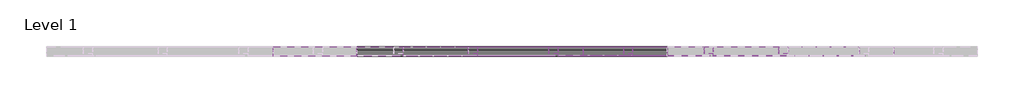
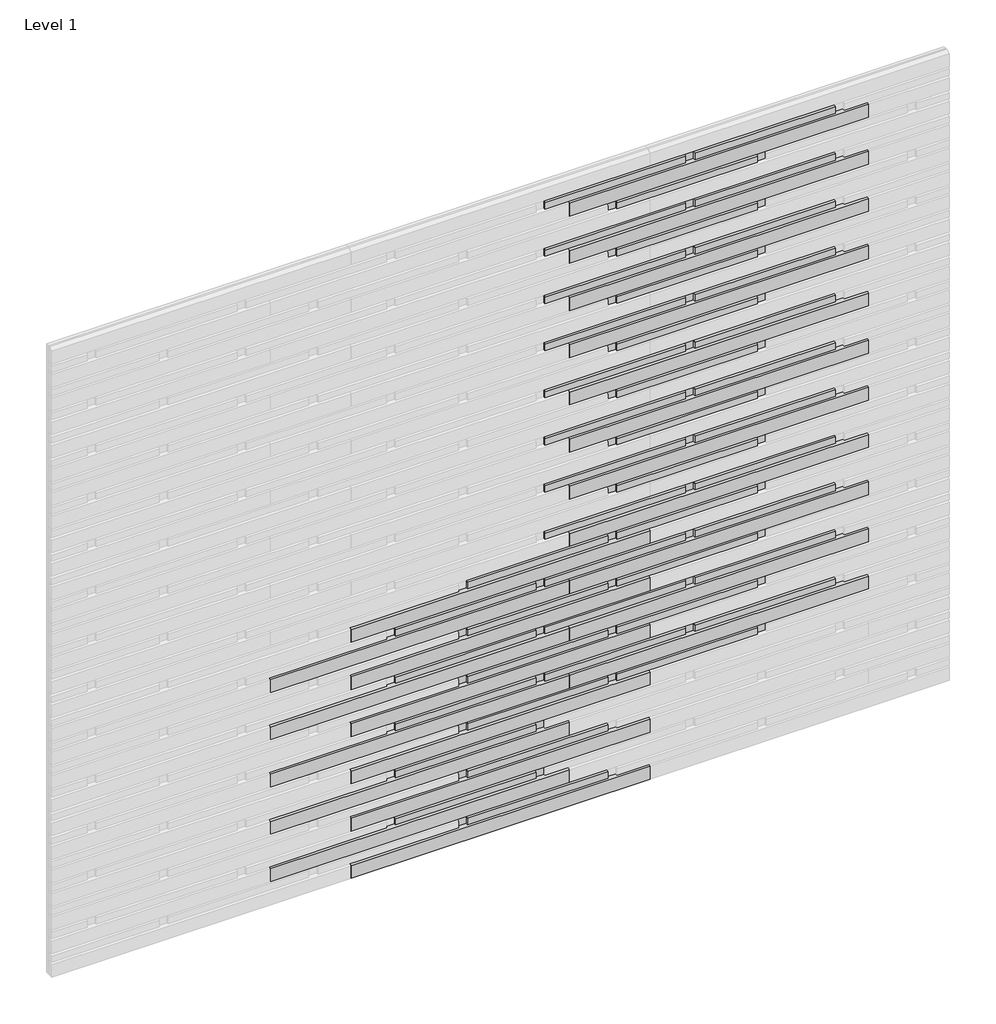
# One storey, part 3 of 4: 109 proxies.
"""IFC4 building model written with IfcOpenShell, lengths in millimetres."""

from ifc_helpers import new_model, si_unit, origin, place, context, project, spatial, transform, mapped, element, save
from components import specialty_equipment_50deff0f, specialty_equipment_1c03680a, specialty_equipment_1ede2179

model = new_model("IFC4")

# Units and contexts
model_context = context("Model", 3, world=origin())
ifc_project = project(units=[si_unit("LENGTHUNIT", "METRE", prefix="MILLI")], contexts=[model_context])

# Site, building, storey
site = spatial("IfcSite", under=ifc_project)
building = spatial("IfcBuilding", under=site)
storey = spatial("IfcBuildingStorey", under=building, Name="Level 1", Elevation=0.0)

# Proxies
placement = place(None, origin())
specialty_equipment_shape = specialty_equipment_50deff0f(model_context)
element("IfcBuildingElementProxy", 1, Name="Spinneybeck_ARO Plank 7 : A - 5’-6”  x 3 1/2” x 1 1/4”", ObjectType="Spinneybeck_ARO Plank 7 : A - 5’-6”  x 3 1/2” x 1 1/4”", at=placement, inside=storey, context=model_context, shape_type="MappedRepresentation", body=[
    mapped(specialty_equipment_shape, transform((-2309.4025517, 2593.3070483, 3615.85), x_axis=(1.0, 0.0, 0.0), y_axis=(0.0, 0.0, 1.0), z_axis=(0.0, -1.0, 0.0))),
])
element("IfcBuildingElementProxy", 2, Name="Spinneybeck_ARO Plank 7 : A - 5’-6”  x 3 1/2” x 1 1/4”", ObjectType="Spinneybeck_ARO Plank 7 : A - 5’-6”  x 3 1/2” x 1 1/4”", at=placement, inside=storey, context=model_context, shape_type="MappedRepresentation", body=[
    mapped(specialty_equipment_shape, transform((-2309.4025517, 2593.3070483, 3336.45), x_axis=(1.0, 0.0, 0.0), y_axis=(0.0, 0.0, 1.0), z_axis=(0.0, -1.0, 0.0))),
])
element("IfcBuildingElementProxy", 3, Name="Spinneybeck_ARO Plank 7 : A - 5’-6”  x 3 1/2” x 1 1/4”", ObjectType="Spinneybeck_ARO Plank 7 : A - 5’-6”  x 3 1/2” x 1 1/4”", at=placement, inside=storey, context=model_context, shape_type="MappedRepresentation", body=[
    mapped(specialty_equipment_shape, transform((-2309.4025517, 2593.3070483, 3057.05), x_axis=(1.0, 0.0, 0.0), y_axis=(0.0, 0.0, 1.0), z_axis=(0.0, -1.0, 0.0))),
])
element("IfcBuildingElementProxy", 4, Name="Spinneybeck_ARO Plank 7 : A - 5’-6”  x 3 1/2” x 1 1/4”", ObjectType="Spinneybeck_ARO Plank 7 : A - 5’-6”  x 3 1/2” x 1 1/4”", at=placement, inside=storey, context=model_context, shape_type="MappedRepresentation", body=[
    mapped(specialty_equipment_shape, transform((-2309.4025517, 2593.3070483, 2777.65), x_axis=(1.0, 0.0, 0.0), y_axis=(0.0, 0.0, 1.0), z_axis=(0.0, -1.0, 0.0))),
])
element("IfcBuildingElementProxy", 5, Name="Spinneybeck_ARO Plank 7 : A - 5’-6”  x 3 1/2” x 1 1/4”", ObjectType="Spinneybeck_ARO Plank 7 : A - 5’-6”  x 3 1/2” x 1 1/4”", at=placement, inside=storey, context=model_context, shape_type="MappedRepresentation", body=[
    mapped(specialty_equipment_shape, transform((-2309.4025517, 2593.3070483, 2498.25), x_axis=(1.0, 0.0, 0.0), y_axis=(0.0, 0.0, 1.0), z_axis=(0.0, -1.0, 0.0))),
])
element("IfcBuildingElementProxy", 6, Name="Spinneybeck_ARO Plank 7 : A - 5’-6”  x 3 1/2” x 1 1/4”", ObjectType="Spinneybeck_ARO Plank 7 : A - 5’-6”  x 3 1/2” x 1 1/4”", at=placement, inside=storey, context=model_context, shape_type="MappedRepresentation", body=[
    mapped(specialty_equipment_shape, transform((-2309.4025517, 2593.3070483, 2218.85), x_axis=(1.0, 0.0, 0.0), y_axis=(0.0, 0.0, 1.0), z_axis=(0.0, -1.0, 0.0))),
])
element("IfcBuildingElementProxy", 7, Name="Spinneybeck_ARO Plank 7 : A - 5’-6”  x 3 1/2” x 1 1/4”", ObjectType="Spinneybeck_ARO Plank 7 : A - 5’-6”  x 3 1/2” x 1 1/4”", at=placement, inside=storey, context=model_context, shape_type="MappedRepresentation", body=[
    mapped(specialty_equipment_shape, transform((-2309.4025517, 2593.3070483, 1939.45), x_axis=(1.0, 0.0, 0.0), y_axis=(0.0, 0.0, 1.0), z_axis=(0.0, -1.0, 0.0))),
])
element("IfcBuildingElementProxy", 8, Name="Spinneybeck_ARO Plank 7 : A - 5’-6”  x 3 1/2” x 1 1/4”", ObjectType="Spinneybeck_ARO Plank 7 : A - 5’-6”  x 3 1/2” x 1 1/4”", at=placement, inside=storey, context=model_context, shape_type="MappedRepresentation", body=[
    mapped(specialty_equipment_shape, transform((-2309.4025517, 2593.3070483, 1660.05), x_axis=(1.0, 0.0, 0.0), y_axis=(0.0, 0.0, 1.0), z_axis=(0.0, -1.0, 0.0))),
])
element("IfcBuildingElementProxy", 9, Name="Spinneybeck_ARO Plank 7 : A - 5’-6”  x 3 1/2” x 1 1/4”", ObjectType="Spinneybeck_ARO Plank 7 : A - 5’-6”  x 3 1/2” x 1 1/4”", at=placement, inside=storey, context=model_context, shape_type="MappedRepresentation", body=[
    mapped(specialty_equipment_shape, transform((-3533.3177571, 2593.3070483, 1520.35), x_axis=(1.0, 0.0, 0.0), y_axis=(0.0, 0.0, 1.0), z_axis=(0.0, -1.0, 0.0))),
])
element("IfcBuildingElementProxy", 10, Name="Spinneybeck_ARO Plank 7 : A - 5’-6”  x 3 1/2” x 1 1/4”", ObjectType="Spinneybeck_ARO Plank 7 : A - 5’-6”  x 3 1/2” x 1 1/4”", at=placement, inside=storey, context=model_context, shape_type="MappedRepresentation", body=[
    mapped(specialty_equipment_shape, transform((-3985.8025517, 2593.3070483, 1380.65), x_axis=(1.0, 0.0, 0.0), y_axis=(0.0, 0.0, 1.0), z_axis=(0.0, -1.0, 0.0))),
])
element("IfcBuildingElementProxy", 11, Name="Spinneybeck_ARO Plank 7 : A - 5’-6”  x 3 1/2” x 1 1/4”", ObjectType="Spinneybeck_ARO Plank 7 : A - 5’-6”  x 3 1/2” x 1 1/4”", at=placement, inside=storey, context=model_context, shape_type="MappedRepresentation", body=[
    mapped(specialty_equipment_shape, transform((-2309.4025517, 2593.3070483, 1380.65), x_axis=(1.0, 0.0, 0.0), y_axis=(0.0, 0.0, 1.0), z_axis=(0.0, -1.0, 0.0))),
])
element("IfcBuildingElementProxy", 12, Name="Spinneybeck_ARO Plank 7 : A - 5’-6”  x 3 1/2” x 1 1/4”", ObjectType="Spinneybeck_ARO Plank 7 : A - 5’-6”  x 3 1/2” x 1 1/4”", at=placement, inside=storey, context=model_context, shape_type="MappedRepresentation", body=[
    mapped(specialty_equipment_shape, transform((-3533.3177571, 2593.3070483, 1240.95), x_axis=(1.0, 0.0, 0.0), y_axis=(0.0, 0.0, 1.0), z_axis=(0.0, -1.0, 0.0))),
])
element("IfcBuildingElementProxy", 13, Name="Spinneybeck_ARO Plank 7 : A - 5’-6”  x 3 1/2” x 1 1/4”", ObjectType="Spinneybeck_ARO Plank 7 : A - 5’-6”  x 3 1/2” x 1 1/4”", at=placement, inside=storey, context=model_context, shape_type="MappedRepresentation", body=[
    mapped(specialty_equipment_shape, transform((-3985.8025517, 2593.3070483, 1101.25), x_axis=(1.0, 0.0, 0.0), y_axis=(0.0, 0.0, 1.0), z_axis=(0.0, -1.0, 0.0))),
])
element("IfcBuildingElementProxy", 14, Name="Spinneybeck_ARO Plank 7 : A - 5’-6”  x 3 1/2” x 1 1/4”", ObjectType="Spinneybeck_ARO Plank 7 : A - 5’-6”  x 3 1/2” x 1 1/4”", at=placement, inside=storey, context=model_context, shape_type="MappedRepresentation", body=[
    mapped(specialty_equipment_shape, transform((-2309.4025517, 2593.3070483, 1101.25), x_axis=(1.0, 0.0, 0.0), y_axis=(0.0, 0.0, 1.0), z_axis=(0.0, -1.0, 0.0))),
])
element("IfcBuildingElementProxy", 15, Name="Spinneybeck_ARO Plank 7 : A - 5’-6”  x 3 1/2” x 1 1/4”", ObjectType="Spinneybeck_ARO Plank 7 : A - 5’-6”  x 3 1/2” x 1 1/4”", at=placement, inside=storey, context=model_context, shape_type="MappedRepresentation", body=[
    mapped(specialty_equipment_shape, transform((-3533.3177571, 2593.3070483, 961.55), x_axis=(1.0, 0.0, 0.0), y_axis=(0.0, 0.0, 1.0), z_axis=(0.0, -1.0, 0.0))),
])
element("IfcBuildingElementProxy", 16, Name="Spinneybeck_ARO Plank 7 : A - 5’-6”  x 3 1/2” x 1 1/4”", ObjectType="Spinneybeck_ARO Plank 7 : A - 5’-6”  x 3 1/2” x 1 1/4”", at=placement, inside=storey, context=model_context, shape_type="MappedRepresentation", body=[
    mapped(specialty_equipment_shape, transform((-3985.8025517, 2593.3070483, 821.85), x_axis=(1.0, 0.0, 0.0), y_axis=(0.0, 0.0, 1.0), z_axis=(0.0, -1.0, 0.0))),
])
element("IfcBuildingElementProxy", 17, Name="Spinneybeck_ARO Plank 7 : A - 5’-6”  x 3 1/2” x 1 1/4”", ObjectType="Spinneybeck_ARO Plank 7 : A - 5’-6”  x 3 1/2” x 1 1/4”", at=placement, inside=storey, context=model_context, shape_type="MappedRepresentation", body=[
    mapped(specialty_equipment_shape, transform((-2309.4025517, 2593.3070483, 821.85), x_axis=(1.0, 0.0, 0.0), y_axis=(0.0, 0.0, 1.0), z_axis=(0.0, -1.0, 0.0))),
])
element("IfcBuildingElementProxy", 18, Name="Spinneybeck_ARO Plank 7 : A - 5’-6”  x 3 1/2” x 1 1/4”", ObjectType="Spinneybeck_ARO Plank 7 : A - 5’-6”  x 3 1/2” x 1 1/4”", at=placement, inside=storey, context=model_context, shape_type="MappedRepresentation", body=[
    mapped(specialty_equipment_shape, transform((-3533.3177571, 2593.3070483, 682.15), x_axis=(1.0, 0.0, 0.0), y_axis=(0.0, 0.0, 1.0), z_axis=(0.0, -1.0, 0.0))),
])
element("IfcBuildingElementProxy", 19, Name="Spinneybeck_ARO Plank 7 : A - 5’-6”  x 3 1/2” x 1 1/4”", ObjectType="Spinneybeck_ARO Plank 7 : A - 5’-6”  x 3 1/2” x 1 1/4”", at=placement, inside=storey, context=model_context, shape_type="MappedRepresentation", body=[
    mapped(specialty_equipment_shape, transform((-3985.8025517, 2593.3070483, 542.45), x_axis=(1.0, 0.0, 0.0), y_axis=(0.0, 0.0, 1.0), z_axis=(0.0, -1.0, 0.0))),
])
element("IfcBuildingElementProxy", 20, Name="Spinneybeck_ARO Plank 7 : A - 5’-6”  x 3 1/2” x 1 1/4”", ObjectType="Spinneybeck_ARO Plank 7 : A - 5’-6”  x 3 1/2” x 1 1/4”", at=placement, inside=storey, context=model_context, shape_type="MappedRepresentation", body=[
    mapped(specialty_equipment_shape, transform((-3533.3177571, 2593.3070483, 402.75), x_axis=(1.0, 0.0, 0.0), y_axis=(0.0, 0.0, 1.0), z_axis=(0.0, -1.0, 0.0))),
])
element("IfcBuildingElementProxy", 21, Name="Spinneybeck_ARO Plank 7 : A - 5’-6”  x 3 1/2” x 1 1/4”", ObjectType="Spinneybeck_ARO Plank 7 : A - 5’-6”  x 3 1/2” x 1 1/4”", at=placement, inside=storey, context=model_context, shape_type="MappedRepresentation", body=[
    mapped(specialty_equipment_shape, transform((-3985.8025517, 2593.3070483, 263.05), x_axis=(1.0, 0.0, 0.0), y_axis=(0.0, 0.0, 1.0), z_axis=(0.0, -1.0, 0.0))),
])
element("IfcBuildingElementProxy", 22, Name="Spinneybeck_ARO Plank 7 : A - 5’-6”  x 3 1/2” x 1 1/4”", ObjectType="Spinneybeck_ARO Plank 7 : A - 5’-6”  x 3 1/2” x 1 1/4”", at=placement, inside=storey, context=model_context, shape_type="MappedRepresentation", body=[
    mapped(specialty_equipment_shape, transform((-3533.3177571, 2593.3070483, 123.35), x_axis=(1.0, 0.0, 0.0), y_axis=(0.0, 0.0, 1.0), z_axis=(0.0, -1.0, 0.0))),
])
specialty_equipment_2_shape = specialty_equipment_1c03680a(model_context)
element("IfcBuildingElementProxy", 23, Name="Spinneybeck_ARO Plank 7 : B - 2’-7” x 2” x 1 1/4”", ObjectType="Spinneybeck_ARO Plank 7 : B - 2’-7” x 2” x 1 1/4”", at=placement, inside=storey, context=model_context, shape_type="MappedRepresentation", body=[
    mapped(specialty_equipment_2_shape, transform((-2889.4591593, 2593.3070483, 3685.7), x_axis=(1.0, 0.0, 0.0), y_axis=(0.0, 0.0, 1.0), z_axis=(0.0, -1.0, 0.0))),
])
element("IfcBuildingElementProxy", 24, Name="Spinneybeck_ARO Plank 7 : B - 2’-7” x 2” x 1 1/4”", ObjectType="Spinneybeck_ARO Plank 7 : B - 2’-7” x 2” x 1 1/4”", at=placement, inside=storey, context=model_context, shape_type="MappedRepresentation", body=[
    mapped(specialty_equipment_2_shape, transform((-2051.2591593, 2593.3070483, 3685.7), x_axis=(1.0, 0.0, 0.0), y_axis=(0.0, 0.0, 1.0), z_axis=(0.0, -1.0, 0.0))),
])
element("IfcBuildingElementProxy", 25, Name="Spinneybeck_ARO Plank 7 : B - 2’-7” x 2” x 1 1/4”", ObjectType="Spinneybeck_ARO Plank 7 : B - 2’-7” x 2” x 1 1/4”", at=placement, inside=storey, context=model_context, shape_type="MappedRepresentation", body=[
    mapped(specialty_equipment_2_shape, transform((-2486.4252102, 2593.3070483, 3546.0), x_axis=(1.0, 0.0, 0.0), y_axis=(0.0, 0.0, 1.0), z_axis=(0.0, -1.0, 0.0))),
])
element("IfcBuildingElementProxy", 26, Name="Spinneybeck_ARO Plank 7 : B - 2’-7” x 2” x 1 1/4”", ObjectType="Spinneybeck_ARO Plank 7 : B - 2’-7” x 2” x 1 1/4”", at=placement, inside=storey, context=model_context, shape_type="MappedRepresentation", body=[
    mapped(specialty_equipment_2_shape, transform((-2889.4591593, 2593.3070483, 3406.3), x_axis=(1.0, 0.0, 0.0), y_axis=(0.0, 0.0, 1.0), z_axis=(0.0, -1.0, 0.0))),
])
element("IfcBuildingElementProxy", 27, Name="Spinneybeck_ARO Plank 7 : B - 2’-7” x 2” x 1 1/4”", ObjectType="Spinneybeck_ARO Plank 7 : B - 2’-7” x 2” x 1 1/4”", at=placement, inside=storey, context=model_context, shape_type="MappedRepresentation", body=[
    mapped(specialty_equipment_2_shape, transform((-2051.2591593, 2593.3070483, 3406.3), x_axis=(1.0, 0.0, 0.0), y_axis=(0.0, 0.0, 1.0), z_axis=(0.0, -1.0, 0.0))),
])
element("IfcBuildingElementProxy", 28, Name="Spinneybeck_ARO Plank 7 : B - 2’-7” x 2” x 1 1/4”", ObjectType="Spinneybeck_ARO Plank 7 : B - 2’-7” x 2” x 1 1/4”", at=placement, inside=storey, context=model_context, shape_type="MappedRepresentation", body=[
    mapped(specialty_equipment_2_shape, transform((-2486.4252102, 2593.3070483, 3266.6), x_axis=(1.0, 0.0, 0.0), y_axis=(0.0, 0.0, 1.0), z_axis=(0.0, -1.0, 0.0))),
])
element("IfcBuildingElementProxy", 29, Name="Spinneybeck_ARO Plank 7 : B - 2’-7” x 2” x 1 1/4”", ObjectType="Spinneybeck_ARO Plank 7 : B - 2’-7” x 2” x 1 1/4”", at=placement, inside=storey, context=model_context, shape_type="MappedRepresentation", body=[
    mapped(specialty_equipment_2_shape, transform((-2889.4591593, 2593.3070483, 3126.9), x_axis=(1.0, 0.0, 0.0), y_axis=(0.0, 0.0, 1.0), z_axis=(0.0, -1.0, 0.0))),
])
element("IfcBuildingElementProxy", 30, Name="Spinneybeck_ARO Plank 7 : B - 2’-7” x 2” x 1 1/4”", ObjectType="Spinneybeck_ARO Plank 7 : B - 2’-7” x 2” x 1 1/4”", at=placement, inside=storey, context=model_context, shape_type="MappedRepresentation", body=[
    mapped(specialty_equipment_2_shape, transform((-2051.2591593, 2593.3070483, 3126.9), x_axis=(1.0, 0.0, 0.0), y_axis=(0.0, 0.0, 1.0), z_axis=(0.0, -1.0, 0.0))),
])
element("IfcBuildingElementProxy", 31, Name="Spinneybeck_ARO Plank 7 : B - 2’-7” x 2” x 1 1/4”", ObjectType="Spinneybeck_ARO Plank 7 : B - 2’-7” x 2” x 1 1/4”", at=placement, inside=storey, context=model_context, shape_type="MappedRepresentation", body=[
    mapped(specialty_equipment_2_shape, transform((-2486.4252102, 2593.3070483, 2987.2), x_axis=(1.0, 0.0, 0.0), y_axis=(0.0, 0.0, 1.0), z_axis=(0.0, -1.0, 0.0))),
])
element("IfcBuildingElementProxy", 32, Name="Spinneybeck_ARO Plank 7 : B - 2’-7” x 2” x 1 1/4”", ObjectType="Spinneybeck_ARO Plank 7 : B - 2’-7” x 2” x 1 1/4”", at=placement, inside=storey, context=model_context, shape_type="MappedRepresentation", body=[
    mapped(specialty_equipment_2_shape, transform((-2889.4591593, 2593.3070483, 2847.5), x_axis=(1.0, 0.0, 0.0), y_axis=(0.0, 0.0, 1.0), z_axis=(0.0, -1.0, 0.0))),
])
element("IfcBuildingElementProxy", 33, Name="Spinneybeck_ARO Plank 7 : B - 2’-7” x 2” x 1 1/4”", ObjectType="Spinneybeck_ARO Plank 7 : B - 2’-7” x 2” x 1 1/4”", at=placement, inside=storey, context=model_context, shape_type="MappedRepresentation", body=[
    mapped(specialty_equipment_2_shape, transform((-2051.2591593, 2593.3070483, 2847.5), x_axis=(1.0, 0.0, 0.0), y_axis=(0.0, 0.0, 1.0), z_axis=(0.0, -1.0, 0.0))),
])
element("IfcBuildingElementProxy", 34, Name="Spinneybeck_ARO Plank 7 : B - 2’-7” x 2” x 1 1/4”", ObjectType="Spinneybeck_ARO Plank 7 : B - 2’-7” x 2” x 1 1/4”", at=placement, inside=storey, context=model_context, shape_type="MappedRepresentation", body=[
    mapped(specialty_equipment_2_shape, transform((-2486.4252102, 2593.3070483, 2707.8), x_axis=(1.0, 0.0, 0.0), y_axis=(0.0, 0.0, 1.0), z_axis=(0.0, -1.0, 0.0))),
])
element("IfcBuildingElementProxy", 35, Name="Spinneybeck_ARO Plank 7 : B - 2’-7” x 2” x 1 1/4”", ObjectType="Spinneybeck_ARO Plank 7 : B - 2’-7” x 2” x 1 1/4”", at=placement, inside=storey, context=model_context, shape_type="MappedRepresentation", body=[
    mapped(specialty_equipment_2_shape, transform((-2889.4591593, 2593.3070483, 2568.1), x_axis=(1.0, 0.0, 0.0), y_axis=(0.0, 0.0, 1.0), z_axis=(0.0, -1.0, 0.0))),
])
element("IfcBuildingElementProxy", 36, Name="Spinneybeck_ARO Plank 7 : B - 2’-7” x 2” x 1 1/4”", ObjectType="Spinneybeck_ARO Plank 7 : B - 2’-7” x 2” x 1 1/4”", at=placement, inside=storey, context=model_context, shape_type="MappedRepresentation", body=[
    mapped(specialty_equipment_2_shape, transform((-2051.2591593, 2593.3070483, 2568.1), x_axis=(1.0, 0.0, 0.0), y_axis=(0.0, 0.0, 1.0), z_axis=(0.0, -1.0, 0.0))),
])
element("IfcBuildingElementProxy", 37, Name="Spinneybeck_ARO Plank 7 : B - 2’-7” x 2” x 1 1/4”", ObjectType="Spinneybeck_ARO Plank 7 : B - 2’-7” x 2” x 1 1/4”", at=placement, inside=storey, context=model_context, shape_type="MappedRepresentation", body=[
    mapped(specialty_equipment_2_shape, transform((-2486.4252102, 2593.3070483, 2428.4), x_axis=(1.0, 0.0, 0.0), y_axis=(0.0, 0.0, 1.0), z_axis=(0.0, -1.0, 0.0))),
])
element("IfcBuildingElementProxy", 38, Name="Spinneybeck_ARO Plank 7 : B - 2’-7” x 2” x 1 1/4”", ObjectType="Spinneybeck_ARO Plank 7 : B - 2’-7” x 2” x 1 1/4”", at=placement, inside=storey, context=model_context, shape_type="MappedRepresentation", body=[
    mapped(specialty_equipment_2_shape, transform((-2889.4591593, 2593.3070483, 2288.7), x_axis=(1.0, 0.0, 0.0), y_axis=(0.0, 0.0, 1.0), z_axis=(0.0, -1.0, 0.0))),
])
element("IfcBuildingElementProxy", 39, Name="Spinneybeck_ARO Plank 7 : B - 2’-7” x 2” x 1 1/4”", ObjectType="Spinneybeck_ARO Plank 7 : B - 2’-7” x 2” x 1 1/4”", at=placement, inside=storey, context=model_context, shape_type="MappedRepresentation", body=[
    mapped(specialty_equipment_2_shape, transform((-2051.2591593, 2593.3070483, 2288.7), x_axis=(1.0, 0.0, 0.0), y_axis=(0.0, 0.0, 1.0), z_axis=(0.0, -1.0, 0.0))),
])
element("IfcBuildingElementProxy", 40, Name="Spinneybeck_ARO Plank 7 : B - 2’-7” x 2” x 1 1/4”", ObjectType="Spinneybeck_ARO Plank 7 : B - 2’-7” x 2” x 1 1/4”", at=placement, inside=storey, context=model_context, shape_type="MappedRepresentation", body=[
    mapped(specialty_equipment_2_shape, transform((-2486.4252102, 2593.3070483, 2149.0), x_axis=(1.0, 0.0, 0.0), y_axis=(0.0, 0.0, 1.0), z_axis=(0.0, -1.0, 0.0))),
])
element("IfcBuildingElementProxy", 41, Name="Spinneybeck_ARO Plank 7 : B - 2’-7” x 2” x 1 1/4”", ObjectType="Spinneybeck_ARO Plank 7 : B - 2’-7” x 2” x 1 1/4”", at=placement, inside=storey, context=model_context, shape_type="MappedRepresentation", body=[
    mapped(specialty_equipment_2_shape, transform((-2889.4591593, 2593.3070483, 2009.3), x_axis=(1.0, 0.0, 0.0), y_axis=(0.0, 0.0, 1.0), z_axis=(0.0, -1.0, 0.0))),
])
element("IfcBuildingElementProxy", 42, Name="Spinneybeck_ARO Plank 7 : B - 2’-7” x 2” x 1 1/4”", ObjectType="Spinneybeck_ARO Plank 7 : B - 2’-7” x 2” x 1 1/4”", at=placement, inside=storey, context=model_context, shape_type="MappedRepresentation", body=[
    mapped(specialty_equipment_2_shape, transform((-2051.2591593, 2593.3070483, 2009.3), x_axis=(1.0, 0.0, 0.0), y_axis=(0.0, 0.0, 1.0), z_axis=(0.0, -1.0, 0.0))),
])
element("IfcBuildingElementProxy", 43, Name="Spinneybeck_ARO Plank 7 : B - 2’-7” x 2” x 1 1/4”", ObjectType="Spinneybeck_ARO Plank 7 : B - 2’-7” x 2” x 1 1/4”", at=placement, inside=storey, context=model_context, shape_type="MappedRepresentation", body=[
    mapped(specialty_equipment_2_shape, transform((-2486.4252102, 2593.3070483, 1869.6), x_axis=(1.0, 0.0, 0.0), y_axis=(0.0, 0.0, 1.0), z_axis=(0.0, -1.0, 0.0))),
])
element("IfcBuildingElementProxy", 44, Name="Spinneybeck_ARO Plank 7 : B - 2’-7” x 2” x 1 1/4”", ObjectType="Spinneybeck_ARO Plank 7 : B - 2’-7” x 2” x 1 1/4”", at=placement, inside=storey, context=model_context, shape_type="MappedRepresentation", body=[
    mapped(specialty_equipment_2_shape, transform((-2889.4591593, 2593.3070483, 1729.9), x_axis=(1.0, 0.0, 0.0), y_axis=(0.0, 0.0, 1.0), z_axis=(0.0, -1.0, 0.0))),
])
element("IfcBuildingElementProxy", 45, Name="Spinneybeck_ARO Plank 7 : B - 2’-7” x 2” x 1 1/4”", ObjectType="Spinneybeck_ARO Plank 7 : B - 2’-7” x 2” x 1 1/4”", at=placement, inside=storey, context=model_context, shape_type="MappedRepresentation", body=[
    mapped(specialty_equipment_2_shape, transform((-2051.2591593, 2593.3070483, 1729.9), x_axis=(1.0, 0.0, 0.0), y_axis=(0.0, 0.0, 1.0), z_axis=(0.0, -1.0, 0.0))),
])
element("IfcBuildingElementProxy", 46, Name="Spinneybeck_ARO Plank 7 : B - 2’-7” x 2” x 1 1/4”", ObjectType="Spinneybeck_ARO Plank 7 : B - 2’-7” x 2” x 1 1/4”", at=placement, inside=storey, context=model_context, shape_type="MappedRepresentation", body=[
    mapped(specialty_equipment_2_shape, transform((-3324.6252102, 2593.3070483, 1590.2), x_axis=(1.0, 0.0, 0.0), y_axis=(0.0, 0.0, 1.0), z_axis=(0.0, -1.0, 0.0))),
])
element("IfcBuildingElementProxy", 47, Name="Spinneybeck_ARO Plank 7 : B - 2’-7” x 2” x 1 1/4”", ObjectType="Spinneybeck_ARO Plank 7 : B - 2’-7” x 2” x 1 1/4”", at=placement, inside=storey, context=model_context, shape_type="MappedRepresentation", body=[
    mapped(specialty_equipment_2_shape, transform((-2486.4252102, 2593.3070483, 1590.2), x_axis=(1.0, 0.0, 0.0), y_axis=(0.0, 0.0, 1.0), z_axis=(0.0, -1.0, 0.0))),
])
element("IfcBuildingElementProxy", 48, Name="Spinneybeck_ARO Plank 7 : B - 2’-7” x 2” x 1 1/4”", ObjectType="Spinneybeck_ARO Plank 7 : B - 2’-7” x 2” x 1 1/4”", at=placement, inside=storey, context=model_context, shape_type="MappedRepresentation", body=[
    mapped(specialty_equipment_2_shape, transform((-3727.6591593, 2593.3070483, 1450.5), x_axis=(1.0, 0.0, 0.0), y_axis=(0.0, 0.0, 1.0), z_axis=(0.0, -1.0, 0.0))),
])
element("IfcBuildingElementProxy", 49, Name="Spinneybeck_ARO Plank 7 : B - 2’-7” x 2” x 1 1/4”", ObjectType="Spinneybeck_ARO Plank 7 : B - 2’-7” x 2” x 1 1/4”", at=placement, inside=storey, context=model_context, shape_type="MappedRepresentation", body=[
    mapped(specialty_equipment_2_shape, transform((-2889.4591593, 2593.3070483, 1450.5), x_axis=(1.0, 0.0, 0.0), y_axis=(0.0, 0.0, 1.0), z_axis=(0.0, -1.0, 0.0))),
])
element("IfcBuildingElementProxy", 50, Name="Spinneybeck_ARO Plank 7 : B - 2’-7” x 2” x 1 1/4”", ObjectType="Spinneybeck_ARO Plank 7 : B - 2’-7” x 2” x 1 1/4”", at=placement, inside=storey, context=model_context, shape_type="MappedRepresentation", body=[
    mapped(specialty_equipment_2_shape, transform((-2051.2591593, 2593.3070483, 1450.5), x_axis=(1.0, 0.0, 0.0), y_axis=(0.0, 0.0, 1.0), z_axis=(0.0, -1.0, 0.0))),
])
element("IfcBuildingElementProxy", 51, Name="Spinneybeck_ARO Plank 7 : B - 2’-7” x 2” x 1 1/4”", ObjectType="Spinneybeck_ARO Plank 7 : B - 2’-7” x 2” x 1 1/4”", at=placement, inside=storey, context=model_context, shape_type="MappedRepresentation", body=[
    mapped(specialty_equipment_2_shape, transform((-3324.6252102, 2593.3070483, 1310.8), x_axis=(1.0, 0.0, 0.0), y_axis=(0.0, 0.0, 1.0), z_axis=(0.0, -1.0, 0.0))),
])
element("IfcBuildingElementProxy", 52, Name="Spinneybeck_ARO Plank 7 : B - 2’-7” x 2” x 1 1/4”", ObjectType="Spinneybeck_ARO Plank 7 : B - 2’-7” x 2” x 1 1/4”", at=placement, inside=storey, context=model_context, shape_type="MappedRepresentation", body=[
    mapped(specialty_equipment_2_shape, transform((-2486.4252102, 2593.3070483, 1310.8), x_axis=(1.0, 0.0, 0.0), y_axis=(0.0, 0.0, 1.0), z_axis=(0.0, -1.0, 0.0))),
])
element("IfcBuildingElementProxy", 53, Name="Spinneybeck_ARO Plank 7 : B - 2’-7” x 2” x 1 1/4”", ObjectType="Spinneybeck_ARO Plank 7 : B - 2’-7” x 2” x 1 1/4”", at=placement, inside=storey, context=model_context, shape_type="MappedRepresentation", body=[
    mapped(specialty_equipment_2_shape, transform((-3727.6591593, 2593.3070483, 1171.1), x_axis=(1.0, 0.0, 0.0), y_axis=(0.0, 0.0, 1.0), z_axis=(0.0, -1.0, 0.0))),
])
element("IfcBuildingElementProxy", 54, Name="Spinneybeck_ARO Plank 7 : B - 2’-7” x 2” x 1 1/4”", ObjectType="Spinneybeck_ARO Plank 7 : B - 2’-7” x 2” x 1 1/4”", at=placement, inside=storey, context=model_context, shape_type="MappedRepresentation", body=[
    mapped(specialty_equipment_2_shape, transform((-2889.4591593, 2593.3070483, 1171.1), x_axis=(1.0, 0.0, 0.0), y_axis=(0.0, 0.0, 1.0), z_axis=(0.0, -1.0, 0.0))),
])
element("IfcBuildingElementProxy", 55, Name="Spinneybeck_ARO Plank 7 : B - 2’-7” x 2” x 1 1/4”", ObjectType="Spinneybeck_ARO Plank 7 : B - 2’-7” x 2” x 1 1/4”", at=placement, inside=storey, context=model_context, shape_type="MappedRepresentation", body=[
    mapped(specialty_equipment_2_shape, transform((-2051.2591593, 2593.3070483, 1171.1), x_axis=(1.0, 0.0, 0.0), y_axis=(0.0, 0.0, 1.0), z_axis=(0.0, -1.0, 0.0))),
])
element("IfcBuildingElementProxy", 56, Name="Spinneybeck_ARO Plank 7 : B - 2’-7” x 2” x 1 1/4”", ObjectType="Spinneybeck_ARO Plank 7 : B - 2’-7” x 2” x 1 1/4”", at=placement, inside=storey, context=model_context, shape_type="MappedRepresentation", body=[
    mapped(specialty_equipment_2_shape, transform((-3324.6252102, 2593.3070483, 1031.4), x_axis=(1.0, 0.0, 0.0), y_axis=(0.0, 0.0, 1.0), z_axis=(0.0, -1.0, 0.0))),
])
element("IfcBuildingElementProxy", 57, Name="Spinneybeck_ARO Plank 7 : B - 2’-7” x 2” x 1 1/4”", ObjectType="Spinneybeck_ARO Plank 7 : B - 2’-7” x 2” x 1 1/4”", at=placement, inside=storey, context=model_context, shape_type="MappedRepresentation", body=[
    mapped(specialty_equipment_2_shape, transform((-2486.4252102, 2593.3070483, 1031.4), x_axis=(1.0, 0.0, 0.0), y_axis=(0.0, 0.0, 1.0), z_axis=(0.0, -1.0, 0.0))),
])
element("IfcBuildingElementProxy", 58, Name="Spinneybeck_ARO Plank 7 : B - 2’-7” x 2” x 1 1/4”", ObjectType="Spinneybeck_ARO Plank 7 : B - 2’-7” x 2” x 1 1/4”", at=placement, inside=storey, context=model_context, shape_type="MappedRepresentation", body=[
    mapped(specialty_equipment_2_shape, transform((-3727.6591593, 2593.3070483, 891.7), x_axis=(1.0, 0.0, 0.0), y_axis=(0.0, 0.0, 1.0), z_axis=(0.0, -1.0, 0.0))),
])
element("IfcBuildingElementProxy", 59, Name="Spinneybeck_ARO Plank 7 : B - 2’-7” x 2” x 1 1/4”", ObjectType="Spinneybeck_ARO Plank 7 : B - 2’-7” x 2” x 1 1/4”", at=placement, inside=storey, context=model_context, shape_type="MappedRepresentation", body=[
    mapped(specialty_equipment_2_shape, transform((-2889.4591593, 2593.3070483, 891.7), x_axis=(1.0, 0.0, 0.0), y_axis=(0.0, 0.0, 1.0), z_axis=(0.0, -1.0, 0.0))),
])
element("IfcBuildingElementProxy", 60, Name="Spinneybeck_ARO Plank 7 : B - 2’-7” x 2” x 1 1/4”", ObjectType="Spinneybeck_ARO Plank 7 : B - 2’-7” x 2” x 1 1/4”", at=placement, inside=storey, context=model_context, shape_type="MappedRepresentation", body=[
    mapped(specialty_equipment_2_shape, transform((-2051.2591593, 2593.3070483, 891.7), x_axis=(1.0, 0.0, 0.0), y_axis=(0.0, 0.0, 1.0), z_axis=(0.0, -1.0, 0.0))),
])
element("IfcBuildingElementProxy", 61, Name="Spinneybeck_ARO Plank 7 : B - 2’-7” x 2” x 1 1/4”", ObjectType="Spinneybeck_ARO Plank 7 : B - 2’-7” x 2” x 1 1/4”", at=placement, inside=storey, context=model_context, shape_type="MappedRepresentation", body=[
    mapped(specialty_equipment_2_shape, transform((-3324.6252102, 2593.3070483, 752.0), x_axis=(1.0, 0.0, 0.0), y_axis=(0.0, 0.0, 1.0), z_axis=(0.0, -1.0, 0.0))),
])
element("IfcBuildingElementProxy", 62, Name="Spinneybeck_ARO Plank 7 : B - 2’-7” x 2” x 1 1/4”", ObjectType="Spinneybeck_ARO Plank 7 : B - 2’-7” x 2” x 1 1/4”", at=placement, inside=storey, context=model_context, shape_type="MappedRepresentation", body=[
    mapped(specialty_equipment_2_shape, transform((-2486.4252102, 2593.3070483, 752.0), x_axis=(1.0, 0.0, 0.0), y_axis=(0.0, 0.0, 1.0), z_axis=(0.0, -1.0, 0.0))),
])
element("IfcBuildingElementProxy", 63, Name="Spinneybeck_ARO Plank 7 : B - 2’-7” x 2” x 1 1/4”", ObjectType="Spinneybeck_ARO Plank 7 : B - 2’-7” x 2” x 1 1/4”", at=placement, inside=storey, context=model_context, shape_type="MappedRepresentation", body=[
    mapped(specialty_equipment_2_shape, transform((-3727.6591593, 2593.3070483, 612.3), x_axis=(1.0, 0.0, 0.0), y_axis=(0.0, 0.0, 1.0), z_axis=(0.0, -1.0, 0.0))),
])
element("IfcBuildingElementProxy", 64, Name="Spinneybeck_ARO Plank 7 : B - 2’-7” x 2” x 1 1/4”", ObjectType="Spinneybeck_ARO Plank 7 : B - 2’-7” x 2” x 1 1/4”", at=placement, inside=storey, context=model_context, shape_type="MappedRepresentation", body=[
    mapped(specialty_equipment_2_shape, transform((-3324.6252102, 2593.3070483, 472.6), x_axis=(1.0, 0.0, 0.0), y_axis=(0.0, 0.0, 1.0), z_axis=(0.0, -1.0, 0.0))),
])
element("IfcBuildingElementProxy", 65, Name="Spinneybeck_ARO Plank 7 : B - 2’-7” x 2” x 1 1/4”", ObjectType="Spinneybeck_ARO Plank 7 : B - 2’-7” x 2” x 1 1/4”", at=placement, inside=storey, context=model_context, shape_type="MappedRepresentation", body=[
    mapped(specialty_equipment_2_shape, transform((-3727.6591593, 2593.3070483, 332.9), x_axis=(1.0, 0.0, 0.0), y_axis=(0.0, 0.0, 1.0), z_axis=(0.0, -1.0, 0.0))),
])
element("IfcBuildingElementProxy", 66, Name="Spinneybeck_ARO Plank 7 : B - 2’-7” x 2” x 1 1/4”", ObjectType="Spinneybeck_ARO Plank 7 : B - 2’-7” x 2” x 1 1/4”", at=placement, inside=storey, context=model_context, shape_type="MappedRepresentation", body=[
    mapped(specialty_equipment_2_shape, transform((-3324.6252102, 2593.3070483, 193.2), x_axis=(1.0, 0.0, 0.0), y_axis=(0.0, 0.0, 1.0), z_axis=(0.0, -1.0, 0.0))),
])
specialty_equipment_3_shape = specialty_equipment_1ede2179(model_context)
element("IfcBuildingElementProxy", 67, Name="Spinneybeck_ARO Plank 7 : C - 2” x 2” x 3/4”", ObjectType="Spinneybeck_ARO Plank 7 : C - 2” x 2” x 3/4”", at=placement, inside=storey, context=model_context, shape_type="MappedRepresentation", body=[
    mapped(specialty_equipment_3_shape, transform((-2470.3591593, 2593.3070483, 3685.7), x_axis=(1.0, 0.0, 0.0), y_axis=(0.0, 0.0, 1.0), z_axis=(0.0, -1.0, 0.0))),
])
element("IfcBuildingElementProxy", 68, Name="Spinneybeck_ARO Plank 7 : C - 2” x 2” x 3/4”", ObjectType="Spinneybeck_ARO Plank 7 : C - 2” x 2” x 3/4”", at=placement, inside=storey, context=model_context, shape_type="MappedRepresentation", body=[
    mapped(specialty_equipment_3_shape, transform((-2905.5252102, 2593.3070483, 3546.0), x_axis=(1.0, 0.0, 0.0), y_axis=(0.0, 0.0, 1.0), z_axis=(0.0, -1.0, 0.0))),
])
element("IfcBuildingElementProxy", 69, Name="Spinneybeck_ARO Plank 7 : C - 2” x 2” x 3/4”", ObjectType="Spinneybeck_ARO Plank 7 : C - 2” x 2” x 3/4”", at=placement, inside=storey, context=model_context, shape_type="MappedRepresentation", body=[
    mapped(specialty_equipment_3_shape, transform((-2067.3252102, 2593.3070483, 3546.0), x_axis=(1.0, 0.0, 0.0), y_axis=(0.0, 0.0, 1.0), z_axis=(0.0, -1.0, 0.0))),
])
element("IfcBuildingElementProxy", 70, Name="Spinneybeck_ARO Plank 7 : C - 2” x 2” x 3/4”", ObjectType="Spinneybeck_ARO Plank 7 : C - 2” x 2” x 3/4”", at=placement, inside=storey, context=model_context, shape_type="MappedRepresentation", body=[
    mapped(specialty_equipment_3_shape, transform((-2470.3591593, 2593.3070483, 3406.3), x_axis=(1.0, 0.0, 0.0), y_axis=(0.0, 0.0, 1.0), z_axis=(0.0, -1.0, 0.0))),
])
element("IfcBuildingElementProxy", 71, Name="Spinneybeck_ARO Plank 7 : C - 2” x 2” x 3/4”", ObjectType="Spinneybeck_ARO Plank 7 : C - 2” x 2” x 3/4”", at=placement, inside=storey, context=model_context, shape_type="MappedRepresentation", body=[
    mapped(specialty_equipment_3_shape, transform((-2905.5252102, 2593.3070483, 3266.6), x_axis=(1.0, 0.0, 0.0), y_axis=(0.0, 0.0, 1.0), z_axis=(0.0, -1.0, 0.0))),
])
element("IfcBuildingElementProxy", 72, Name="Spinneybeck_ARO Plank 7 : C - 2” x 2” x 3/4”", ObjectType="Spinneybeck_ARO Plank 7 : C - 2” x 2” x 3/4”", at=placement, inside=storey, context=model_context, shape_type="MappedRepresentation", body=[
    mapped(specialty_equipment_3_shape, transform((-2067.3252102, 2593.3070483, 3266.6), x_axis=(1.0, 0.0, 0.0), y_axis=(0.0, 0.0, 1.0), z_axis=(0.0, -1.0, 0.0))),
])
element("IfcBuildingElementProxy", 73, Name="Spinneybeck_ARO Plank 7 : C - 2” x 2” x 3/4”", ObjectType="Spinneybeck_ARO Plank 7 : C - 2” x 2” x 3/4”", at=placement, inside=storey, context=model_context, shape_type="MappedRepresentation", body=[
    mapped(specialty_equipment_3_shape, transform((-2470.3591593, 2593.3070483, 3126.9), x_axis=(1.0, 0.0, 0.0), y_axis=(0.0, 0.0, 1.0), z_axis=(0.0, -1.0, 0.0))),
])
element("IfcBuildingElementProxy", 74, Name="Spinneybeck_ARO Plank 7 : C - 2” x 2” x 3/4”", ObjectType="Spinneybeck_ARO Plank 7 : C - 2” x 2” x 3/4”", at=placement, inside=storey, context=model_context, shape_type="MappedRepresentation", body=[
    mapped(specialty_equipment_3_shape, transform((-2905.5252102, 2593.3070483, 2987.2), x_axis=(1.0, 0.0, 0.0), y_axis=(0.0, 0.0, 1.0), z_axis=(0.0, -1.0, 0.0))),
])
element("IfcBuildingElementProxy", 75, Name="Spinneybeck_ARO Plank 7 : C - 2” x 2” x 3/4”", ObjectType="Spinneybeck_ARO Plank 7 : C - 2” x 2” x 3/4”", at=placement, inside=storey, context=model_context, shape_type="MappedRepresentation", body=[
    mapped(specialty_equipment_3_shape, transform((-2067.3252102, 2593.3070483, 2987.2), x_axis=(1.0, 0.0, 0.0), y_axis=(0.0, 0.0, 1.0), z_axis=(0.0, -1.0, 0.0))),
])
element("IfcBuildingElementProxy", 76, Name="Spinneybeck_ARO Plank 7 : C - 2” x 2” x 3/4”", ObjectType="Spinneybeck_ARO Plank 7 : C - 2” x 2” x 3/4”", at=placement, inside=storey, context=model_context, shape_type="MappedRepresentation", body=[
    mapped(specialty_equipment_3_shape, transform((-2470.3591593, 2593.3070483, 2847.5), x_axis=(1.0, 0.0, 0.0), y_axis=(0.0, 0.0, 1.0), z_axis=(0.0, -1.0, 0.0))),
])
element("IfcBuildingElementProxy", 77, Name="Spinneybeck_ARO Plank 7 : C - 2” x 2” x 3/4”", ObjectType="Spinneybeck_ARO Plank 7 : C - 2” x 2” x 3/4”", at=placement, inside=storey, context=model_context, shape_type="MappedRepresentation", body=[
    mapped(specialty_equipment_3_shape, transform((-2905.5252102, 2593.3070483, 2707.8), x_axis=(1.0, 0.0, 0.0), y_axis=(0.0, 0.0, 1.0), z_axis=(0.0, -1.0, 0.0))),
])
element("IfcBuildingElementProxy", 78, Name="Spinneybeck_ARO Plank 7 : C - 2” x 2” x 3/4”", ObjectType="Spinneybeck_ARO Plank 7 : C - 2” x 2” x 3/4”", at=placement, inside=storey, context=model_context, shape_type="MappedRepresentation", body=[
    mapped(specialty_equipment_3_shape, transform((-2067.3252102, 2593.3070483, 2707.8), x_axis=(1.0, 0.0, 0.0), y_axis=(0.0, 0.0, 1.0), z_axis=(0.0, -1.0, 0.0))),
])
element("IfcBuildingElementProxy", 79, Name="Spinneybeck_ARO Plank 7 : C - 2” x 2” x 3/4”", ObjectType="Spinneybeck_ARO Plank 7 : C - 2” x 2” x 3/4”", at=placement, inside=storey, context=model_context, shape_type="MappedRepresentation", body=[
    mapped(specialty_equipment_3_shape, transform((-2470.3591593, 2593.3070483, 2568.1), x_axis=(1.0, 0.0, 0.0), y_axis=(0.0, 0.0, 1.0), z_axis=(0.0, -1.0, 0.0))),
])
element("IfcBuildingElementProxy", 80, Name="Spinneybeck_ARO Plank 7 : C - 2” x 2” x 3/4”", ObjectType="Spinneybeck_ARO Plank 7 : C - 2” x 2” x 3/4”", at=placement, inside=storey, context=model_context, shape_type="MappedRepresentation", body=[
    mapped(specialty_equipment_3_shape, transform((-2905.5252102, 2593.3070483, 2428.4), x_axis=(1.0, 0.0, 0.0), y_axis=(0.0, 0.0, 1.0), z_axis=(0.0, -1.0, 0.0))),
])
element("IfcBuildingElementProxy", 81, Name="Spinneybeck_ARO Plank 7 : C - 2” x 2” x 3/4”", ObjectType="Spinneybeck_ARO Plank 7 : C - 2” x 2” x 3/4”", at=placement, inside=storey, context=model_context, shape_type="MappedRepresentation", body=[
    mapped(specialty_equipment_3_shape, transform((-2067.3252102, 2593.3070483, 2428.4), x_axis=(1.0, 0.0, 0.0), y_axis=(0.0, 0.0, 1.0), z_axis=(0.0, -1.0, 0.0))),
])
element("IfcBuildingElementProxy", 82, Name="Spinneybeck_ARO Plank 7 : C - 2” x 2” x 3/4”", ObjectType="Spinneybeck_ARO Plank 7 : C - 2” x 2” x 3/4”", at=placement, inside=storey, context=model_context, shape_type="MappedRepresentation", body=[
    mapped(specialty_equipment_3_shape, transform((-2470.3591593, 2593.3070483, 2288.7), x_axis=(1.0, 0.0, 0.0), y_axis=(0.0, 0.0, 1.0), z_axis=(0.0, -1.0, 0.0))),
])
element("IfcBuildingElementProxy", 83, Name="Spinneybeck_ARO Plank 7 : C - 2” x 2” x 3/4”", ObjectType="Spinneybeck_ARO Plank 7 : C - 2” x 2” x 3/4”", at=placement, inside=storey, context=model_context, shape_type="MappedRepresentation", body=[
    mapped(specialty_equipment_3_shape, transform((-2905.5252102, 2593.3070483, 2149.0), x_axis=(1.0, 0.0, 0.0), y_axis=(0.0, 0.0, 1.0), z_axis=(0.0, -1.0, 0.0))),
])
element("IfcBuildingElementProxy", 84, Name="Spinneybeck_ARO Plank 7 : C - 2” x 2” x 3/4”", ObjectType="Spinneybeck_ARO Plank 7 : C - 2” x 2” x 3/4”", at=placement, inside=storey, context=model_context, shape_type="MappedRepresentation", body=[
    mapped(specialty_equipment_3_shape, transform((-2067.3252102, 2593.3070483, 2149.0), x_axis=(1.0, 0.0, 0.0), y_axis=(0.0, 0.0, 1.0), z_axis=(0.0, -1.0, 0.0))),
])
element("IfcBuildingElementProxy", 85, Name="Spinneybeck_ARO Plank 7 : C - 2” x 2” x 3/4”", ObjectType="Spinneybeck_ARO Plank 7 : C - 2” x 2” x 3/4”", at=placement, inside=storey, context=model_context, shape_type="MappedRepresentation", body=[
    mapped(specialty_equipment_3_shape, transform((-2470.3591593, 2593.3070483, 2009.3), x_axis=(1.0, 0.0, 0.0), y_axis=(0.0, 0.0, 1.0), z_axis=(0.0, -1.0, 0.0))),
])
element("IfcBuildingElementProxy", 86, Name="Spinneybeck_ARO Plank 7 : C - 2” x 2” x 3/4”", ObjectType="Spinneybeck_ARO Plank 7 : C - 2” x 2” x 3/4”", at=placement, inside=storey, context=model_context, shape_type="MappedRepresentation", body=[
    mapped(specialty_equipment_3_shape, transform((-2905.5252102, 2593.3070483, 1869.6), x_axis=(1.0, 0.0, 0.0), y_axis=(0.0, 0.0, 1.0), z_axis=(0.0, -1.0, 0.0))),
])
element("IfcBuildingElementProxy", 87, Name="Spinneybeck_ARO Plank 7 : C - 2” x 2” x 3/4”", ObjectType="Spinneybeck_ARO Plank 7 : C - 2” x 2” x 3/4”", at=placement, inside=storey, context=model_context, shape_type="MappedRepresentation", body=[
    mapped(specialty_equipment_3_shape, transform((-2067.3252102, 2593.3070483, 1869.6), x_axis=(1.0, 0.0, 0.0), y_axis=(0.0, 0.0, 1.0), z_axis=(0.0, -1.0, 0.0))),
])
element("IfcBuildingElementProxy", 88, Name="Spinneybeck_ARO Plank 7 : C - 2” x 2” x 3/4”", ObjectType="Spinneybeck_ARO Plank 7 : C - 2” x 2” x 3/4”", at=placement, inside=storey, context=model_context, shape_type="MappedRepresentation", body=[
    mapped(specialty_equipment_3_shape, transform((-2470.3591593, 2593.3070483, 1729.9), x_axis=(1.0, 0.0, 0.0), y_axis=(0.0, 0.0, 1.0), z_axis=(0.0, -1.0, 0.0))),
])
element("IfcBuildingElementProxy", 89, Name="Spinneybeck_ARO Plank 7 : C - 2” x 2” x 3/4”", ObjectType="Spinneybeck_ARO Plank 7 : C - 2” x 2” x 3/4”", at=placement, inside=storey, context=model_context, shape_type="MappedRepresentation", body=[
    mapped(specialty_equipment_3_shape, transform((-2905.5252102, 2593.3070483, 1590.2), x_axis=(1.0, 0.0, 0.0), y_axis=(0.0, 0.0, 1.0), z_axis=(0.0, -1.0, 0.0))),
])
element("IfcBuildingElementProxy", 90, Name="Spinneybeck_ARO Plank 7 : C - 2” x 2” x 3/4”", ObjectType="Spinneybeck_ARO Plank 7 : C - 2” x 2” x 3/4”", at=placement, inside=storey, context=model_context, shape_type="MappedRepresentation", body=[
    mapped(specialty_equipment_3_shape, transform((-2067.3252102, 2593.3070483, 1590.2), x_axis=(1.0, 0.0, 0.0), y_axis=(0.0, 0.0, 1.0), z_axis=(0.0, -1.0, 0.0))),
])
element("IfcBuildingElementProxy", 91, Name="Spinneybeck_ARO Plank 7 : C - 2” x 2” x 3/4”", ObjectType="Spinneybeck_ARO Plank 7 : C - 2” x 2” x 3/4”", at=placement, inside=storey, context=model_context, shape_type="MappedRepresentation", body=[
    mapped(specialty_equipment_3_shape, transform((-3308.5591593, 2593.3070483, 1450.5), x_axis=(1.0, 0.0, 0.0), y_axis=(0.0, 0.0, 1.0), z_axis=(0.0, -1.0, 0.0))),
])
element("IfcBuildingElementProxy", 92, Name="Spinneybeck_ARO Plank 7 : C - 2” x 2” x 3/4”", ObjectType="Spinneybeck_ARO Plank 7 : C - 2” x 2” x 3/4”", at=placement, inside=storey, context=model_context, shape_type="MappedRepresentation", body=[
    mapped(specialty_equipment_3_shape, transform((-2470.3591593, 2593.3070483, 1450.5), x_axis=(1.0, 0.0, 0.0), y_axis=(0.0, 0.0, 1.0), z_axis=(0.0, -1.0, 0.0))),
])
element("IfcBuildingElementProxy", 93, Name="Spinneybeck_ARO Plank 7 : C - 2” x 2” x 3/4”", ObjectType="Spinneybeck_ARO Plank 7 : C - 2” x 2” x 3/4”", at=placement, inside=storey, context=model_context, shape_type="MappedRepresentation", body=[
    mapped(specialty_equipment_3_shape, transform((-3743.7252102, 2593.3070483, 1310.8), x_axis=(1.0, 0.0, 0.0), y_axis=(0.0, 0.0, 1.0), z_axis=(0.0, -1.0, 0.0))),
])
element("IfcBuildingElementProxy", 94, Name="Spinneybeck_ARO Plank 7 : C - 2” x 2” x 3/4”", ObjectType="Spinneybeck_ARO Plank 7 : C - 2” x 2” x 3/4”", at=placement, inside=storey, context=model_context, shape_type="MappedRepresentation", body=[
    mapped(specialty_equipment_3_shape, transform((-2905.5252102, 2593.3070483, 1310.8), x_axis=(1.0, 0.0, 0.0), y_axis=(0.0, 0.0, 1.0), z_axis=(0.0, -1.0, 0.0))),
])
element("IfcBuildingElementProxy", 95, Name="Spinneybeck_ARO Plank 7 : C - 2” x 2” x 3/4”", ObjectType="Spinneybeck_ARO Plank 7 : C - 2” x 2” x 3/4”", at=placement, inside=storey, context=model_context, shape_type="MappedRepresentation", body=[
    mapped(specialty_equipment_3_shape, transform((-2067.3252102, 2593.3070483, 1310.8), x_axis=(1.0, 0.0, 0.0), y_axis=(0.0, 0.0, 1.0), z_axis=(0.0, -1.0, 0.0))),
])
element("IfcBuildingElementProxy", 96, Name="Spinneybeck_ARO Plank 7 : C - 2” x 2” x 3/4”", ObjectType="Spinneybeck_ARO Plank 7 : C - 2” x 2” x 3/4”", at=placement, inside=storey, context=model_context, shape_type="MappedRepresentation", body=[
    mapped(specialty_equipment_3_shape, transform((-3308.5591593, 2593.3070483, 1171.1), x_axis=(1.0, 0.0, 0.0), y_axis=(0.0, 0.0, 1.0), z_axis=(0.0, -1.0, 0.0))),
])
element("IfcBuildingElementProxy", 97, Name="Spinneybeck_ARO Plank 7 : C - 2” x 2” x 3/4”", ObjectType="Spinneybeck_ARO Plank 7 : C - 2” x 2” x 3/4”", at=placement, inside=storey, context=model_context, shape_type="MappedRepresentation", body=[
    mapped(specialty_equipment_3_shape, transform((-2470.3591593, 2593.3070483, 1171.1), x_axis=(1.0, 0.0, 0.0), y_axis=(0.0, 0.0, 1.0), z_axis=(0.0, -1.0, 0.0))),
])
element("IfcBuildingElementProxy", 98, Name="Spinneybeck_ARO Plank 7 : C - 2” x 2” x 3/4”", ObjectType="Spinneybeck_ARO Plank 7 : C - 2” x 2” x 3/4”", at=placement, inside=storey, context=model_context, shape_type="MappedRepresentation", body=[
    mapped(specialty_equipment_3_shape, transform((-3743.7252102, 2593.3070483, 1031.4), x_axis=(1.0, 0.0, 0.0), y_axis=(0.0, 0.0, 1.0), z_axis=(0.0, -1.0, 0.0))),
])
element("IfcBuildingElementProxy", 99, Name="Spinneybeck_ARO Plank 7 : C - 2” x 2” x 3/4”", ObjectType="Spinneybeck_ARO Plank 7 : C - 2” x 2” x 3/4”", at=placement, inside=storey, context=model_context, shape_type="MappedRepresentation", body=[
    mapped(specialty_equipment_3_shape, transform((-2905.5252102, 2593.3070483, 1031.4), x_axis=(1.0, 0.0, 0.0), y_axis=(0.0, 0.0, 1.0), z_axis=(0.0, -1.0, 0.0))),
])
element("IfcBuildingElementProxy", 100, Name="Spinneybeck_ARO Plank 7 : C - 2” x 2” x 3/4”", ObjectType="Spinneybeck_ARO Plank 7 : C - 2” x 2” x 3/4”", at=placement, inside=storey, context=model_context, shape_type="MappedRepresentation", body=[
    mapped(specialty_equipment_3_shape, transform((-2067.3252102, 2593.3070483, 1031.4), x_axis=(1.0, 0.0, 0.0), y_axis=(0.0, 0.0, 1.0), z_axis=(0.0, -1.0, 0.0))),
])
element("IfcBuildingElementProxy", 101, Name="Spinneybeck_ARO Plank 7 : C - 2” x 2” x 3/4”", ObjectType="Spinneybeck_ARO Plank 7 : C - 2” x 2” x 3/4”", at=placement, inside=storey, context=model_context, shape_type="MappedRepresentation", body=[
    mapped(specialty_equipment_3_shape, transform((-3308.5591593, 2593.3070483, 891.7), x_axis=(1.0, 0.0, 0.0), y_axis=(0.0, 0.0, 1.0), z_axis=(0.0, -1.0, 0.0))),
])
element("IfcBuildingElementProxy", 102, Name="Spinneybeck_ARO Plank 7 : C - 2” x 2” x 3/4”", ObjectType="Spinneybeck_ARO Plank 7 : C - 2” x 2” x 3/4”", at=placement, inside=storey, context=model_context, shape_type="MappedRepresentation", body=[
    mapped(specialty_equipment_3_shape, transform((-2470.3591593, 2593.3070483, 891.7), x_axis=(1.0, 0.0, 0.0), y_axis=(0.0, 0.0, 1.0), z_axis=(0.0, -1.0, 0.0))),
])
element("IfcBuildingElementProxy", 103, Name="Spinneybeck_ARO Plank 7 : C - 2” x 2” x 3/4”", ObjectType="Spinneybeck_ARO Plank 7 : C - 2” x 2” x 3/4”", at=placement, inside=storey, context=model_context, shape_type="MappedRepresentation", body=[
    mapped(specialty_equipment_3_shape, transform((-3743.7252102, 2593.3070483, 752.0), x_axis=(1.0, 0.0, 0.0), y_axis=(0.0, 0.0, 1.0), z_axis=(0.0, -1.0, 0.0))),
])
element("IfcBuildingElementProxy", 104, Name="Spinneybeck_ARO Plank 7 : C - 2” x 2” x 3/4”", ObjectType="Spinneybeck_ARO Plank 7 : C - 2” x 2” x 3/4”", at=placement, inside=storey, context=model_context, shape_type="MappedRepresentation", body=[
    mapped(specialty_equipment_3_shape, transform((-2905.5252102, 2593.3070483, 752.0), x_axis=(1.0, 0.0, 0.0), y_axis=(0.0, 0.0, 1.0), z_axis=(0.0, -1.0, 0.0))),
])
element("IfcBuildingElementProxy", 105, Name="Spinneybeck_ARO Plank 7 : C - 2” x 2” x 3/4”", ObjectType="Spinneybeck_ARO Plank 7 : C - 2” x 2” x 3/4”", at=placement, inside=storey, context=model_context, shape_type="MappedRepresentation", body=[
    mapped(specialty_equipment_3_shape, transform((-2067.3252102, 2593.3070483, 752.0), x_axis=(1.0, 0.0, 0.0), y_axis=(0.0, 0.0, 1.0), z_axis=(0.0, -1.0, 0.0))),
])
element("IfcBuildingElementProxy", 106, Name="Spinneybeck_ARO Plank 7 : C - 2” x 2” x 3/4”", ObjectType="Spinneybeck_ARO Plank 7 : C - 2” x 2” x 3/4”", at=placement, inside=storey, context=model_context, shape_type="MappedRepresentation", body=[
    mapped(specialty_equipment_3_shape, transform((-3308.5591593, 2593.3070483, 612.3), x_axis=(1.0, 0.0, 0.0), y_axis=(0.0, 0.0, 1.0), z_axis=(0.0, -1.0, 0.0))),
])
element("IfcBuildingElementProxy", 107, Name="Spinneybeck_ARO Plank 7 : C - 2” x 2” x 3/4”", ObjectType="Spinneybeck_ARO Plank 7 : C - 2” x 2” x 3/4”", at=placement, inside=storey, context=model_context, shape_type="MappedRepresentation", body=[
    mapped(specialty_equipment_3_shape, transform((-3743.7252102, 2593.3070483, 472.6), x_axis=(1.0, 0.0, 0.0), y_axis=(0.0, 0.0, 1.0), z_axis=(0.0, -1.0, 0.0))),
])
element("IfcBuildingElementProxy", 108, Name="Spinneybeck_ARO Plank 7 : C - 2” x 2” x 3/4”", ObjectType="Spinneybeck_ARO Plank 7 : C - 2” x 2” x 3/4”", at=placement, inside=storey, context=model_context, shape_type="MappedRepresentation", body=[
    mapped(specialty_equipment_3_shape, transform((-3308.5591593, 2593.3070483, 332.9), x_axis=(1.0, 0.0, 0.0), y_axis=(0.0, 0.0, 1.0), z_axis=(0.0, -1.0, 0.0))),
])
element("IfcBuildingElementProxy", 109, Name="Spinneybeck_ARO Plank 7 : C - 2” x 2” x 3/4”", ObjectType="Spinneybeck_ARO Plank 7 : C - 2” x 2” x 3/4”", at=placement, inside=storey, context=model_context, shape_type="MappedRepresentation", body=[
    mapped(specialty_equipment_3_shape, transform((-3743.7252102, 2593.3070483, 193.2), x_axis=(1.0, 0.0, 0.0), y_axis=(0.0, 0.0, 1.0), z_axis=(0.0, -1.0, 0.0))),
])

save(model, "model.ifc")
